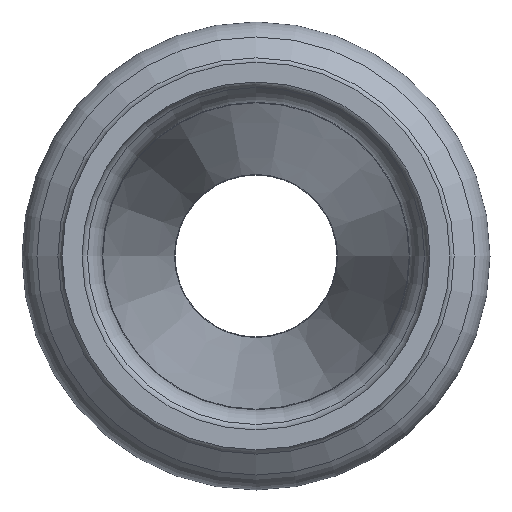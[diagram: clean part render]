
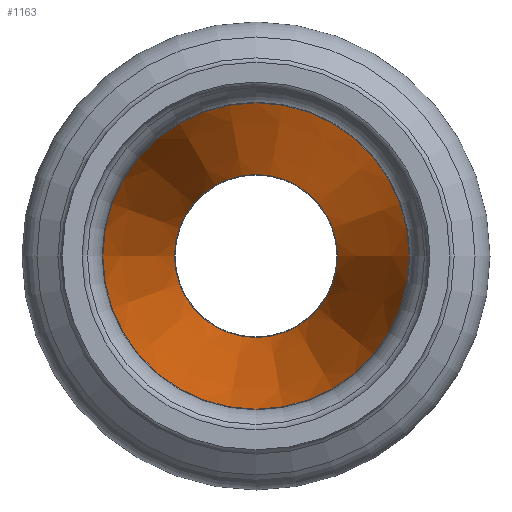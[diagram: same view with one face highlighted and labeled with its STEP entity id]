
A CAD part, left-side view. The second image highlights one B-rep face of the part: STEP entity #1163.
In plain terms, the highlighted conical face has half-angle 11.144 degrees and reference radius 16.281 mm.
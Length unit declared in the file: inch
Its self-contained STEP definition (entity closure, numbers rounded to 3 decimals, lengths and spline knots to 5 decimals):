
#76=LINE('',#2154,#98);
#98=VECTOR('',#1741,0.64098);
#112=CONICAL_SURFACE('',#1349,0.64098,0.195);
#149=FACE_OUTER_BOUND('',#198,.T.);
#198=EDGE_LOOP('',(#951,#952,#953,#954,#955,#956,#957,#958));
#327=CIRCLE('',#1345,0.44507);
#328=CIRCLE('',#1346,0.44507);
#329=CIRCLE('',#1347,0.44507);
#331=CIRCLE('',#1350,0.83689);
#332=CIRCLE('',#1351,0.83689);
#333=CIRCLE('',#1352,0.83689);
#470=VERTEX_POINT('',#2145);
#471=VERTEX_POINT('',#2146);
#472=VERTEX_POINT('',#2148);
#473=VERTEX_POINT('',#2153);
#474=VERTEX_POINT('',#2155);
#475=VERTEX_POINT('',#2157);
#638=EDGE_CURVE('',#470,#471,#327,.T.);
#639=EDGE_CURVE('',#472,#470,#328,.T.);
#640=EDGE_CURVE('',#471,#472,#329,.T.);
#642=EDGE_CURVE('',#472,#473,#76,.T.);
#643=EDGE_CURVE('',#474,#473,#331,.T.);
#644=EDGE_CURVE('',#475,#474,#332,.T.);
#645=EDGE_CURVE('',#473,#475,#333,.T.);
#951=ORIENTED_EDGE('',*,*,#638,.T.);
#952=ORIENTED_EDGE('',*,*,#640,.T.);
#953=ORIENTED_EDGE('',*,*,#642,.T.);
#954=ORIENTED_EDGE('',*,*,#643,.F.);
#955=ORIENTED_EDGE('',*,*,#644,.F.);
#956=ORIENTED_EDGE('',*,*,#645,.F.);
#957=ORIENTED_EDGE('',*,*,#642,.F.);
#958=ORIENTED_EDGE('',*,*,#639,.T.);
#1163=ADVANCED_FACE('',(#149),#112,.F.);
#1345=AXIS2_PLACEMENT_3D('',#2147,#1731,#1732);
#1346=AXIS2_PLACEMENT_3D('',#2149,#1733,#1734);
#1347=AXIS2_PLACEMENT_3D('',#2150,#1735,#1736);
#1349=AXIS2_PLACEMENT_3D('',#2152,#1739,#1740);
#1350=AXIS2_PLACEMENT_3D('',#2156,#1742,#1743);
#1351=AXIS2_PLACEMENT_3D('',#2158,#1744,#1745);
#1352=AXIS2_PLACEMENT_3D('',#2159,#1746,#1747);
#1731=DIRECTION('center_axis',(1.,0.,0.));
#1732=DIRECTION('ref_axis',(0.,1.,0.));
#1733=DIRECTION('center_axis',(1.,0.,0.));
#1734=DIRECTION('ref_axis',(0.,1.,0.));
#1735=DIRECTION('center_axis',(1.,0.,0.));
#1736=DIRECTION('ref_axis',(0.,1.,0.));
#1739=DIRECTION('center_axis',(-1.,0.,0.));
#1740=DIRECTION('ref_axis',(0.,1.,0.));
#1741=DIRECTION('',(-0.981,-0.193,0.));
#1742=DIRECTION('center_axis',(1.,0.,0.));
#1743=DIRECTION('ref_axis',(0.,1.,0.));
#1744=DIRECTION('center_axis',(1.,0.,0.));
#1745=DIRECTION('ref_axis',(0.,1.,0.));
#1746=DIRECTION('center_axis',(1.,0.,0.));
#1747=DIRECTION('ref_axis',(0.,1.,0.));
#2145=CARTESIAN_POINT('',(1.02478,0.44507,0.));
#2146=CARTESIAN_POINT('',(1.02478,0.,0.44507));
#2147=CARTESIAN_POINT('Origin',(1.02478,0.,0.));
#2148=CARTESIAN_POINT('',(1.02478,-0.44507,0.));
#2149=CARTESIAN_POINT('Origin',(1.02478,0.,0.));
#2150=CARTESIAN_POINT('Origin',(1.02478,0.,0.));
#2152=CARTESIAN_POINT('Origin',(0.03028,0.,
0.));
#2153=CARTESIAN_POINT('',(-0.96422,-0.83689,0.));
#2154=CARTESIAN_POINT('',(0.03028,-0.64098,0.));
#2155=CARTESIAN_POINT('',(-0.96422,0.,0.83689));
#2156=CARTESIAN_POINT('Origin',(-0.96422,0.,
0.));
#2157=CARTESIAN_POINT('',(-0.96422,0.83689,0.));
#2158=CARTESIAN_POINT('Origin',(-0.96422,0.,
0.));
#2159=CARTESIAN_POINT('Origin',(-0.96422,0.,
0.));
